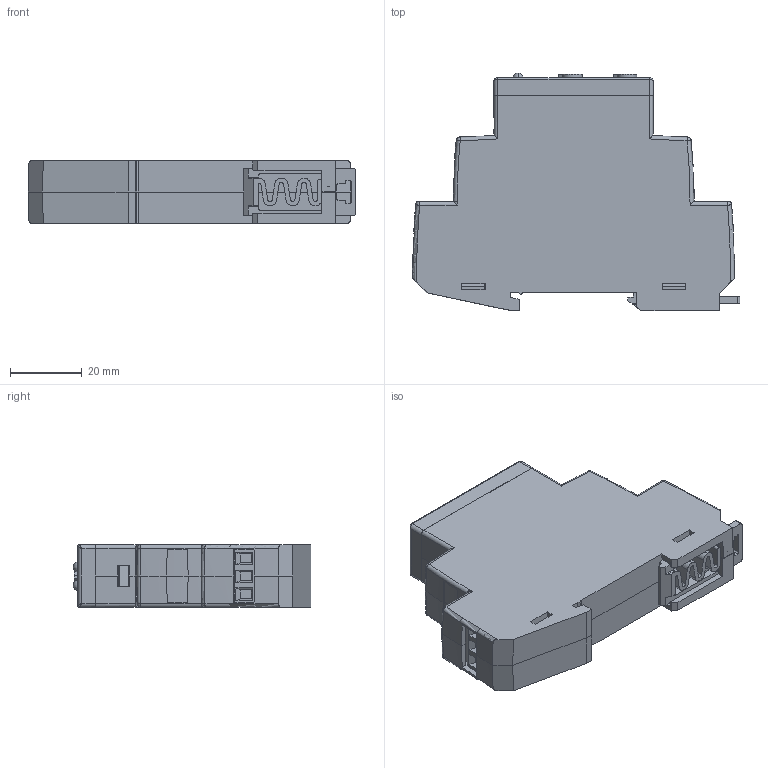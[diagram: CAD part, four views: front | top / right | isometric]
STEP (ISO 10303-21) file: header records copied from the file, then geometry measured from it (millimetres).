
FILE_DESCRIPTION(('FreeCAD Model'),'2;1');
FILE_NAME('Open CASCADE Shape Model','2024-02-19T09:31:05',(''),(''), 'Open CASCADE STEP processor 7.6','FreeCAD','Unknown');
FILE_SCHEMA(('AUTOMOTIVE_DESIGN { 1 0 10303 214 1 1 1 1 }'));
Length unit declared in the file: millimetre
Products named in the file (14): TE5_SPDT; Terminals; Bottom Terminals; Terminal001; Terminal002; Enclosure; din clip; Dial001; Dial003; Cover; Side Right, 2 Terminal (A); Side Left, 2 Terminal; LED; LED001
Assembly tree (13 placements, depth 4):
  TE5_SPDT
    Terminals
      Bottom Terminals
        Terminal001
        Terminal002
    Enclosure
      din clip
      Dial001
      Dial003
      Cover
      Side Right, 2 Terminal (A)
      Side Left, 2 Terminal
    LED
      LED001
Bounding box: 91.28 x 66.31 x 17.5 mm (x, y, z)
Volume: 17052.3 mm3; surface area: 33973.7 mm2
Topology: 7 solids, 19 shells, 1777 faces, 10704 edges, 22640 vertices
Faces by surface type: plane 1098, cylinder 246, bspline 245, cone 121, torus 47, sphere 16, revolution 4
Full cylindrical faces by diameter (mm): 3.2 x2, 5.7 x2
Entity records: 226713 total; most frequent: CARTESIAN_POINT 89681, DIRECTION 19792, LINE 12389, VECTOR 12389, ORIENTED_EDGE 9910, PCURVE 9910, DEFINITIONAL_REPRESENTATION 9910, EDGE_CURVE 4960
